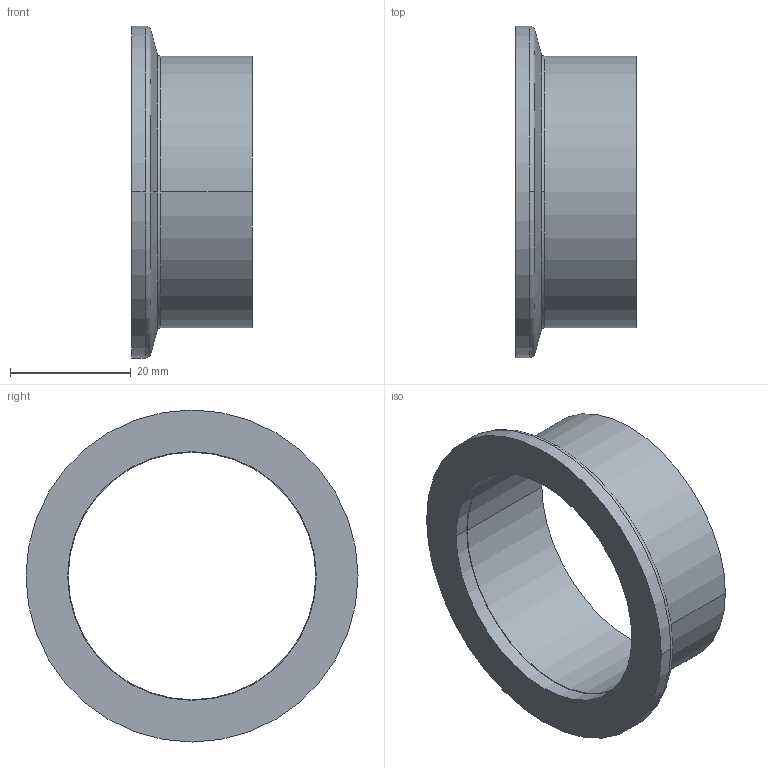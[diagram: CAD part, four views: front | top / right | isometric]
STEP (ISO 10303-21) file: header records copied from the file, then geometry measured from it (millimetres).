
FILE_DESCRIPTION((''),'2;1');
FILE_NAME('W:\211-214.stp','2003-10-09T10:02:30',('KAA'),(''),'Autodesk Inventor (R) 6.0','Autodesk Inventor (R) 6.0','');
FILE_SCHEMA(('CONFIG_CONTROL_DESIGN'));
Length unit declared in the file: millimetre
Products named in the file (1): 211-214
Bounding box: 20 x 55 x 55 mm (x, y, z)
Volume: 8222.4 mm3; surface area: 7390.4 mm2
Topology: 1 solids, 1 shells, 17 faces, 42 edges, 28 vertices
Faces by surface type: cylinder 8, plane 3, torus 2, cone 2, bspline 2
Entity records: 707 total; most frequent: CARTESIAN_POINT 176, DIRECTION 106, ORIENTED_EDGE 84, AXIS2_PLACEMENT_3D 48, EDGE_CURVE 42, CIRCLE 32, VERTEX_POINT 28, EDGE_LOOP 20
